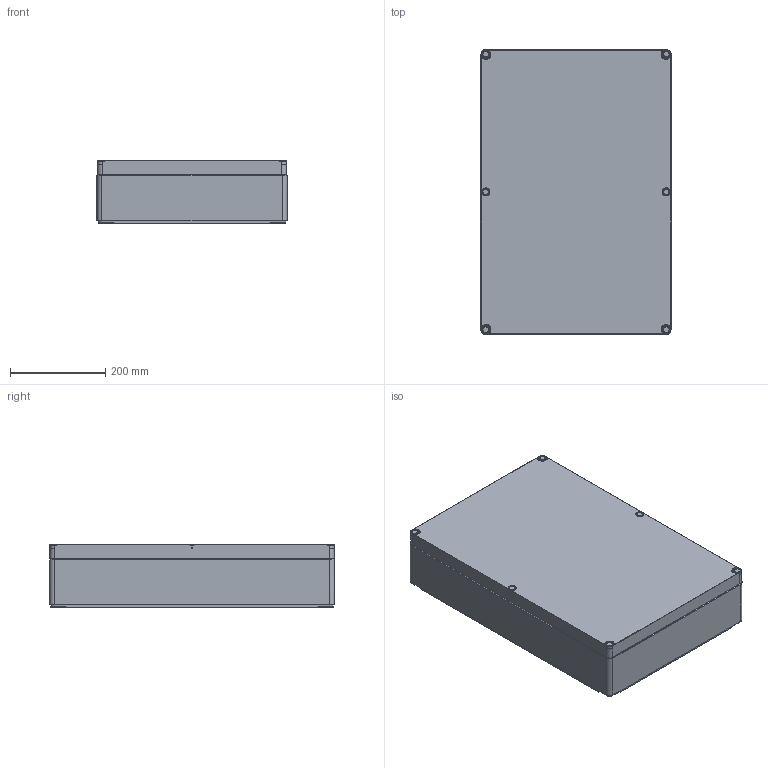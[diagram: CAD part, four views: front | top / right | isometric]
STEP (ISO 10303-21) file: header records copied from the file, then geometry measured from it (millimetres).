
FILE_DESCRIPTION((''),'1');
FILE_NAME('13','2001-04-17T',('jlue'),(''),'PRO/ENGINEER BY PARAMETRIC TECHNOLOGY CORPORATION, 9846','PRO/ENGINEER BY PARAMETRIC TECHNOLOGY CORPORATION, 9846','');
FILE_SCHEMA(('CONFIG_CONTROL_DESIGN'));
Length unit declared in the file: millimetre
Products named in the file (1): 13
Bounding box: 400 x 600 x 132 mm (x, y, z)
Surface area: 1497935.8 mm2 (no closed solid volume)
Topology: 0 solids, 0 shells, 854 faces, 4250 edges, 4440 vertices
Faces by surface type: cylinder 446, plane 380, torus 28
Entity records: 22222 total; most frequent: DIRECTION 4862, COMPOSITE_CURVE_SEGMENT 3976, CARTESIAN_POINT 3148, TRIMMED_CURVE 2198, AXIS2_PLACEMENT_3D 1810, VECTOR 1242, LINE 1242, CIRCLE 956
